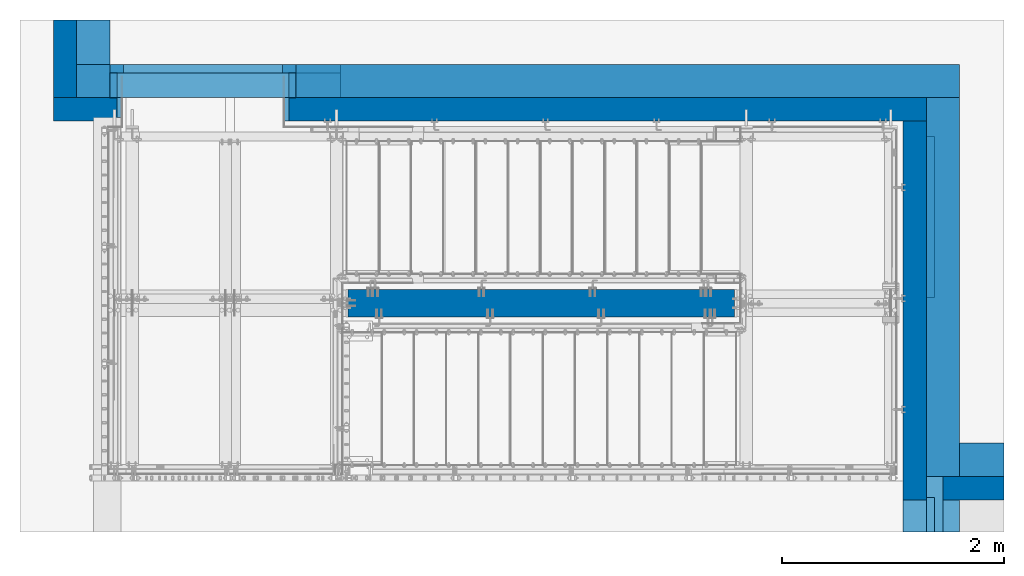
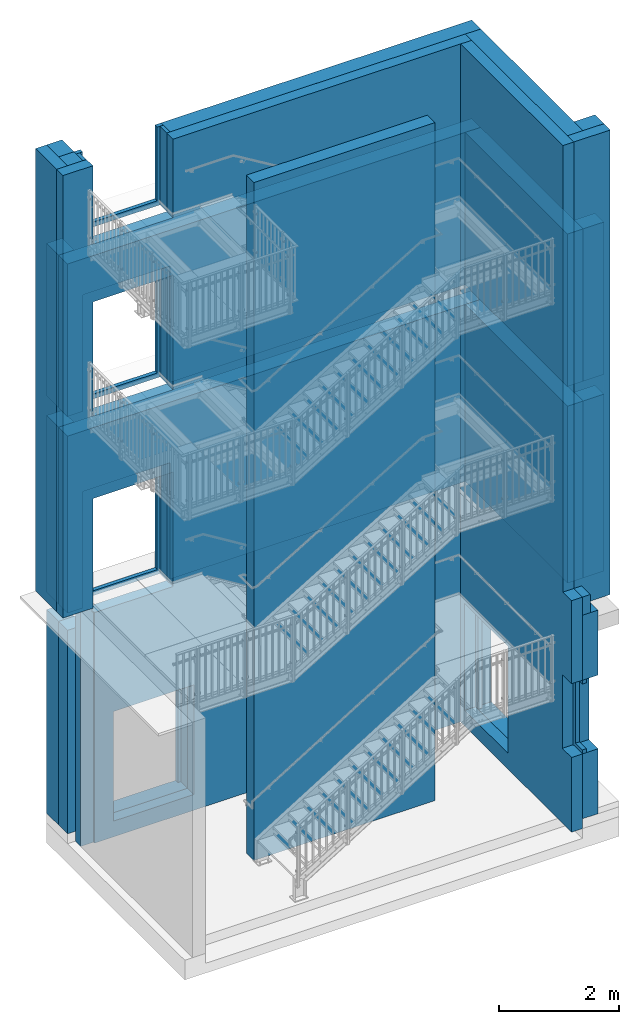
# One storey, part 73 of 410: 31 walls, 27 openings.
"""IFC2X3 building model written with IfcOpenShell, lengths in millimetres."""

from ifc_helpers import new_model, entity, si_unit, converted_unit, frame, origin, origin_with_axes, place, context, project, spatial, polyline, outline, extrude, material, layer, layer_set, element, save


model = new_model("IFC2X3")

# Units and contexts
model_context = context("Model", 3, precision=1e-09, world=origin_with_axes())
ifc_project = project(units=[si_unit("LENGTHUNIT", "METRE", prefix="MILLI"), si_unit("AREAUNIT", "SQUARE_METRE"), si_unit("VOLUMEUNIT", "CUBIC_METRE"), converted_unit("PLANEANGLEUNIT", "DEGREE", entity("IfcPlaneAngleMeasure", 0.01745329), si_unit("PLANEANGLEUNIT", "RADIAN"), dimensions=[0, 0, 0, 0, 0, 0, 0])], contexts=[model_context])

# Site, building, storey
site_placement = place(None, origin_with_axes())
site = spatial("IfcSite", under=ifc_project, at=site_placement, Name="mKR Teilneubau & Sanierung BA1 - Ostfildern", CompositionType="ELEMENT")
building_placement = place(site_placement, origin_with_axes())
building = spatial("IfcBuilding", under=site, at=building_placement, Name="Struktur 1", CompositionType="ELEMENT")
storey_placement = place(building_placement, origin_with_axes())
storey = spatial("IfcBuildingStorey", under=building, at=storey_placement, Name="Default Storey", CompositionType="ELEMENT", Elevation=0.0)

# Wall
ifc_material = material(Name="C25/30")
ifc_layer_1 = layer(ifc_material, 300.0)
ifc_layer_set_1 = layer_set([ifc_layer_1], Name="C25/30")
wall_1_placement = place(None, frame((-3850.0, 19329.999958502, 5450.000021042), z_axis=(-1.0, 0.0, 0.0), x_axis=(0.0, -1.0, 0.0)))
element("IfcWall", 1, at=wall_1_placement, inside=storey, material=ifc_layer_set_1, Name="-", ObjectType="-", context=model_context, shape_type="SweptSolid", body=[
    extrude(outline(polyline([(-200.0, -1550.0), (200.0, -1550.0), (200.0, 1550.0), (-200.0, 1550.0), (-200.0, -1550.0)])), origin_with_axes(), (0.0, 0.0, 1.0), 300.0),
])

# Wall, opening
wall_2_placement = place(None, frame((-174.99949668, 19129.999956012, 5450.000021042), z_axis=(0.0, -1.0, 0.0), x_axis=(1.0, 0.0, 0.0)))
wall_2 = element("IfcWall", 2, at=wall_2_placement, inside=storey, material=ifc_layer_set_1, Name="-", ObjectType="-", context=model_context, shape_type="SweptSolid", body=[
    extrude(outline(polyline([(-3975.0, -1550.0), (3975.0, -1550.0), (3975.0, 1550.0), (-3975.0, 1550.0), (-3975.0, -1550.0)])), origin_with_axes(), (0.0, 0.0, 1.0), 300.0),
])
opening_1_placement = place(wall_2_placement, frame((-1.661e-06, 0.0, -0.10004399), z_axis=(0.0, 0.0, 1.0), x_axis=(1.0, 0.0, 0.0)))
element("IfcOpeningElement", 3, at=opening_1_placement, cuts=wall_2, ObjectType="Opening", context=model_context, shape_type="SweptSolid", body=[
    extrude(outline(polyline([(-3675.0015, -1550.001021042), (-2000.00000166, -1550.001021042), (-2000.00000166, 820.000978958), (-3675.0015, 820.000978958), (-3675.0015, -1550.001021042)])), origin(), (0.0, 0.0, 1.0), 300.200087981),
])

# Walls
wall_3_placement = place(None, frame((3800.001, 17125.000368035, 5450.000021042), z_axis=(-1.0, 2.93e-07, 0.0), x_axis=(-2.93e-07, -1.0, 0.0)))
element("IfcWall", 4, at=wall_3_placement, inside=storey, material=ifc_layer_set_1, Name="-", ObjectType="-", context=model_context, shape_type="SweptSolid", body=[
    extrude(outline(polyline([(-1705.0, -1550.0), (1705.0, -1550.0), (1705.0, 1550.0), (-1705.0, 1550.0), (-1705.0, -1550.0)])), origin_with_axes(), (0.0, 0.0, 1.0), 300.0),
])
wall_4_placement = place(None, frame((3999.999934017, 15719.999956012, 5450.000021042), z_axis=(2.2e-07, -1.0, 0.0), x_axis=(1.0, 2.2e-07, 0.0)))
element("IfcWall", 5, at=wall_4_placement, inside=storey, material=ifc_layer_set_1, Name="-", ObjectType="-", context=model_context, shape_type="SweptSolid", body=[
    extrude(outline(polyline([(-200.0, -1550.0), (200.0, -1550.0), (200.0, 1550.0), (-200.0, 1550.0), (-200.0, -1550.0)])), origin_with_axes(), (0.0, 0.0, 1.0), 300.0),
])
wall_5_placement = place(None, frame((-3850.0, 19329.999958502, 8200.000021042), z_axis=(-1.0, 0.0, 0.0), x_axis=(0.0, -1.0, 0.0)))
element("IfcWall", 6, at=wall_5_placement, inside=storey, material=ifc_layer_set_1, Name="-", ObjectType="-", context=model_context, shape_type="SweptSolid", body=[
    extrude(outline(polyline([(-200.0, -800.0), (200.0, -800.0), (200.0, 800.0), (-200.0, 800.0), (-200.0, -800.0)])), origin_with_axes(), (0.0, 0.0, 1.0), 300.0),
])

# Wall, opening
wall_6_placement = place(None, frame((-174.99949668, 19129.999956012, 8200.000021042), z_axis=(0.0, -1.0, 0.0), x_axis=(1.0, 0.0, 0.0)))
wall_6 = element("IfcWall", 7, at=wall_6_placement, inside=storey, material=ifc_layer_set_1, Name="-", ObjectType="-", context=model_context, shape_type="SweptSolid", body=[
    extrude(outline(polyline([(-3975.0, -800.0), (3975.0, -800.0), (3975.0, 800.0), (-3975.0, 800.0), (-3975.0, -800.0)])), origin_with_axes(), (0.0, 0.0, 1.0), 300.0),
])
opening_2_placement = place(wall_6_placement, frame((-1.661e-06, 0.0, -0.10004399), z_axis=(0.0, 0.0, 1.0), x_axis=(1.0, 0.0, 0.0)))
element("IfcOpeningElement", 8, at=opening_2_placement, cuts=wall_6, ObjectType="Opening", context=model_context, shape_type="SweptSolid", body=[
    extrude(outline(polyline([(-3675.0015, -800.001021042), (-1999.9995, -800.001021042), (-1999.9995, 1075.774564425), (-3675.0015, 1075.774564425), (-3675.0015, -800.001021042)])), origin(), (0.0, 0.0, 1.0), 300.200087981),
])

# Walls
wall_7_placement = place(None, frame((3800.001, 17125.000368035, 8200.000021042), z_axis=(-1.0, 2.93e-07, 0.0), x_axis=(-2.93e-07, -1.0, 0.0)))
element("IfcWall", 9, at=wall_7_placement, inside=storey, material=ifc_layer_set_1, Name="-", ObjectType="-", context=model_context, shape_type="SweptSolid", body=[
    extrude(outline(polyline([(-1705.0, -800.0), (1705.0, -800.0), (1705.0, 800.0), (-1705.0, 800.0), (-1705.0, -800.0)])), origin_with_axes(), (0.0, 0.0, 1.0), 300.0),
])
wall_8_placement = place(None, frame((3999.999934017, 15719.999956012, 8200.000021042), z_axis=(2.2e-07, -1.0, 0.0), x_axis=(1.0, 2.2e-07, 0.0)))
element("IfcWall", 10, at=wall_8_placement, inside=storey, material=ifc_layer_set_1, Name="-", ObjectType="-", context=model_context, shape_type="SweptSolid", body=[
    extrude(outline(polyline([(-200.0, -800.0), (200.0, -800.0), (200.0, 800.0), (-200.0, 800.0), (-200.0, -800.0)])), origin_with_axes(), (0.0, 0.0, 1.0), 300.0),
])

# Wall, opening
ifc_layer_2 = layer(ifc_material, 75.0)
ifc_layer_set_2 = layer_set([ifc_layer_2], Name="C25/30")
wall_9_placement = place(None, frame((-3012.500439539, 19054.999302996, 5084.999), z_axis=(-8.06e-07, 1.0, 0.0), x_axis=(-1.0, -8.06e-07, 0.0)))
wall_9 = element("IfcWall", 11, at=wall_9_placement, inside=storey, material=ifc_layer_set_2, Name="-", ObjectType="-", context=model_context, shape_type="SweptSolid", body=[
    extrude(outline(polyline([(-837.5, -1185.0), (837.5, -1185.0), (837.5, 1185.0), (-837.5, 1185.0), (-837.5, -1185.0)])), origin_with_axes(), (0.0, 0.0, 1.0), 75.0),
])
opening_3_placement = place(wall_9_placement, frame((-3.0312e-05, 0.0, 75.100675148), z_axis=(8.06e-07, 0.0, -1.0), x_axis=(-1.0, 0.0, -8.06e-07)))
element("IfcOpeningElement", 12, at=opening_3_placement, cuts=wall_9, ObjectType="Opening", context=model_context, shape_type="SweptSolid", body=[
    extrude(outline(polyline([(-717.500971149, -1085.001), (717.502089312, -1085.001), (717.50202885, 1105.003), (-717.501031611, 1105.003), (-717.500971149, -1085.001)])), origin(), (0.0, 0.0, 1.0), 75.201350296),
])

wall_10_placement = place(None, frame((-2612.499439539, 19054.999309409, -3335.001), z_axis=(-8.06e-07, 1.0, 0.0), x_axis=(-1.0, -8.06e-07, 0.0)))
wall_10 = element("IfcWall", 13, at=wall_10_placement, inside=storey, material=ifc_layer_set_2, Name="-", ObjectType="-", context=model_context, shape_type="SweptSolid", body=[
    extrude(outline(polyline([(-837.501, -1135.0), (837.501, -1135.0), (837.501, 1135.0), (-837.501, 1135.0), (-837.501, -1135.0)])), origin_with_axes(), (0.0, 0.0, 1.0), 75.0),
])
opening_4_placement = place(wall_10_placement, frame((-3.0312e-05, 0.0, 75.100675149), z_axis=(8.06e-07, 0.0, -1.0), x_axis=(-1.0, 0.0, -8.06e-07)))
element("IfcOpeningElement", 14, at=opening_4_placement, cuts=wall_10, ObjectType="Opening", context=model_context, shape_type="SweptSolid", body=[
    extrude(outline(polyline([(-717.500969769, -1135.001), (717.502090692, -1135.001), (717.50203023, 1055.003), (-717.501030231, 1055.003), (-717.500969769, -1135.001)])), origin(), (0.0, 0.0, 1.0), 75.201350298),
])

# Wall, openings
wall_11_placement = place(None, frame((-3012.500439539, 19054.999302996, 8634.999), z_axis=(-8.06e-07, 1.0, 0.0), x_axis=(-1.0, -8.06e-07, 0.0)))
wall_11 = element("IfcWall", 15, at=wall_11_placement, inside=storey, material=ifc_layer_set_2, Name="-", ObjectType="-", context=model_context, shape_type="SweptSolid", body=[
    extrude(outline(polyline([(-837.5, -1235.0), (837.5, -1235.0), (837.5, 1235.0), (-837.5, 1235.0), (-837.5, -1235.0)])), origin_with_axes(), (0.0, 0.0, 1.0), 75.0),
])
opening_5_placement = place(wall_11_placement, frame((-3.0312e-05, 0.0, 75.100675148), z_axis=(8.06e-07, 0.0, -1.0), x_axis=(-1.0, 0.0, -8.06e-07)))
element("IfcOpeningElement", 16, at=opening_5_placement, cuts=wall_11, ObjectType="Opening", context=model_context, shape_type="SweptSolid", body=[
    extrude(outline(polyline([(-717.500969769, -1135.0), (717.502090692, -1135.0), (717.50203023, 1055.003), (-717.501030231, 1055.003), (-717.500969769, -1135.0)])), origin(), (0.0, 0.0, 1.0), 75.201350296),
])
opening_6_placement = place(wall_11_placement, frame((-3.0312e-05, 0.0, 75.100675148), z_axis=(8.06e-07, 0.0, -1.0), x_axis=(-1.0, 0.0, -8.06e-07)))
element("IfcOpeningElement", 17, at=opening_6_placement, cuts=wall_11, ObjectType="Opening", context=model_context, shape_type="SweptSolid", body=[
    extrude(outline(polyline([(-987.500531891, 365.000021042), (1057.173475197, 365.000021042), (1057.173475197, 1313.68029887), (-987.500531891, 1313.68029887), (-987.500531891, 365.000021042)])), origin(), (0.0, 0.0, 1.0), 75.201350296),
])

# Wall, opening
wall_12_placement = place(None, frame((3574.999774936, 17754.999868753, -3382.5), z_axis=(-1.0, -9.31e-07, 0.0), x_axis=(9.31e-07, -1.0, 0.0)))
wall_12 = element("IfcWall", 18, at=wall_12_placement, inside=storey, material=ifc_layer_set_2, Name="-", ObjectType="-", context=model_context, shape_type="SweptSolid", body=[
    extrude(outline(polyline([(-725.001, -1087.501), (725.001, -1087.501), (725.001, 1087.501), (-725.001, 1087.501), (-725.001, -1087.501)])), origin_with_axes(), (0.0, 0.0, 1.0), 75.0),
])
opening_7_placement = place(wall_12_placement, frame((-3.0312e-05, 0.0, 75.100584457), z_axis=(8.06e-07, 0.0, -1.0), x_axis=(-1.0, 0.0, -8.06e-07)))
element("IfcOpeningElement", 19, at=opening_7_placement, cuts=wall_12, ObjectType="Opening", context=model_context, shape_type="SweptSolid", body=[
    extrude(outline(polyline([(-645.002000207, -1087.502), (645.001998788, -1087.502), (645.001940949, 1007.502), (-645.002058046, 1007.502), (-645.002000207, -1087.502)])), origin(), (0.0, 0.0, 1.0), 75.201168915),
])

wall_13_placement = place(None, frame((3574.999774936, 15075.000726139, -2520.0), z_axis=(-1.0, -4.356e-06, 0.0), x_axis=(4.356e-06, -1.0, 0.0)))
wall_13 = element("IfcWall", 20, at=wall_13_placement, inside=storey, material=ifc_layer_set_2, Name="-", ObjectType="-", context=model_context, shape_type="SweptSolid", body=[
    extrude(outline(polyline([(-155.000399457, -750.001), (155.000399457, -750.001), (155.000399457, 750.001), (-155.000399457, 750.001), (-155.000399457, -750.001)])), origin_with_axes(), (0.0, 0.0, 1.0), 75.0),
])
opening_8_placement = place(wall_13_placement, frame((0.000163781, 0.0, -0.100675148), z_axis=(-4.356e-06, 0.0, 1.0), x_axis=(1.0, 0.0, 4.356e-06)))
element("IfcOpeningElement", 21, at=opening_8_placement, cuts=wall_13, ObjectType="Opening", context=model_context, shape_type="SweptSolid", body=[
    extrude(outline(polyline([(-75.001236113, -670.002), (344.909581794, -670.002), (344.909581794, 670.002), (-75.001236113, 670.002), (-75.001236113, -670.002)])), origin(), (0.0, 0.0, 1.0), 75.201350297),
])

ifc_layer_3 = layer(ifc_material, 225.0)
ifc_layer_set_3 = layer_set([ifc_layer_3], Name="C25/30")
wall_14_placement = place(None, frame((-3012.500439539, 19054.999302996, 5084.999), z_axis=(8.06e-07, -1.0, 0.0), x_axis=(1.0, 8.06e-07, 0.0)))
wall_14 = element("IfcWall", 22, at=wall_14_placement, inside=storey, material=ifc_layer_set_3, Name="-", ObjectType="-", context=model_context, shape_type="SweptSolid", body=[
    extrude(outline(polyline([(-837.5, -1185.0), (837.5, -1185.0), (837.5, 1185.0), (-837.5, 1185.0), (-837.5, -1185.0)])), origin_with_axes(), (0.0, 0.0, 1.0), 225.0),
])
opening_9_placement = place(wall_14_placement, frame((9.0773e-05, 0.0, -0.100675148), z_axis=(-8.06e-07, 0.0, 1.0), x_axis=(1.0, 0.0, 8.06e-07)))
element("IfcOpeningElement", 23, at=opening_9_placement, cuts=wall_14, ObjectType="Opening", context=model_context, shape_type="SweptSolid", body=[
    extrude(outline(polyline([(-772.503151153, -1185.002), (772.50396977, -1185.002), (772.50396977, 1145.005), (-772.503151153, 1145.005), (-772.503151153, -1185.002)])), origin(), (0.0, 0.0, 1.0), 225.201350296),
])

wall_15_placement = place(None, frame((-3012.499937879, 19054.999346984, 1084.999), z_axis=(8.06e-07, -1.0, 0.0), x_axis=(1.0, 8.06e-07, 0.0)))
wall_15 = element("IfcWall", 24, at=wall_15_placement, inside=storey, material=ifc_layer_set_3, Name="-", ObjectType="-", context=model_context, shape_type="SweptSolid", body=[
    extrude(outline(polyline([(-837.5, -1185.0), (837.5, -1185.0), (837.5, 1185.0), (-837.5, 1185.0), (-837.5, -1185.0)])), origin_with_axes(), (0.0, 0.0, 1.0), 225.0),
])
opening_10_placement = place(wall_15_placement, frame((9.0773e-05, 0.0, -0.100675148), z_axis=(-8.06e-07, 0.0, 1.0), x_axis=(1.0, 0.0, 8.06e-07)))
element("IfcOpeningElement", 25, at=opening_10_placement, cuts=wall_15, ObjectType="Opening", context=model_context, shape_type="SweptSolid", body=[
    extrude(outline(polyline([(-772.503652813, -1185.002), (772.50346811, -1185.002), (772.50346811, 1145.005), (-772.503652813, 1145.005), (-772.503652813, -1185.002)])), origin(), (0.0, 0.0, 1.0), 225.201350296),
])

wall_16_placement = place(None, frame((-2612.499439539, 19054.999309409, -3335.001), z_axis=(8.06e-07, -1.0, 0.0), x_axis=(1.0, 8.06e-07, 0.0)))
wall_16 = element("IfcWall", 26, at=wall_16_placement, inside=storey, material=ifc_layer_set_3, Name="-", ObjectType="-", context=model_context, shape_type="SweptSolid", body=[
    extrude(outline(polyline([(-837.5, -1135.0), (837.5, -1135.0), (837.5, 1135.0), (-837.5, 1135.0), (-837.5, -1135.0)])), origin_with_axes(), (0.0, 0.0, 1.0), 225.0),
])
opening_11_placement = place(wall_16_placement, frame((9.0773e-05, 0.0, -0.100675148), z_axis=(-8.06e-07, 0.0, 1.0), x_axis=(1.0, 0.0, 8.06e-07)))
element("IfcOpeningElement", 27, at=opening_11_placement, cuts=wall_16, ObjectType="Opening", context=model_context, shape_type="SweptSolid", body=[
    extrude(outline(polyline([(-772.503652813, -1135.002), (772.50346811, -1135.002), (772.50346811, 1095.005), (-772.503652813, 1095.005), (-772.503652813, -1135.002)])), origin(), (0.0, 0.0, 1.0), 225.201350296),
])

# Wall
wall_17_placement = place(None, frame((-3850.0, 19330.0005, -2520.0), z_axis=(-1.0, 0.0, 0.0), x_axis=(0.0, -1.0, 0.0)))
element("IfcWall", 28, at=wall_17_placement, inside=storey, material=ifc_layer_set_1, Name="-", ObjectType="-", context=model_context, shape_type="SweptSolid", body=[
    extrude(outline(polyline([(-199.9995, -2070.0), (199.9995, -2070.0), (199.9995, 2070.0), (-199.9995, 2070.0), (-199.9995, -2070.0)])), origin_with_axes(), (0.0, 0.0, 1.0), 300.0),
])

# Wall, opening
wall_18_placement = place(None, frame((-175.000002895, 19130.0, -2520.0), z_axis=(0.0, -1.0, 0.0), x_axis=(1.0, 0.0, 0.0)))
wall_18 = element("IfcWall", 29, at=wall_18_placement, inside=storey, material=ifc_layer_set_1, Name="-", ObjectType="-", context=model_context, shape_type="SweptSolid", body=[
    extrude(outline(polyline([(-3975.0, -2070.0), (3975.0, -2070.0), (3975.0, 2070.0), (-3975.0, 2070.0), (-3975.0, -2070.0)])), origin_with_axes(), (0.0, 0.0, 1.0), 300.0),
])
opening_12_placement = place(wall_18_placement, frame((1.449e-06, 0.0, -0.100038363), z_axis=(0.0, 0.0, 1.0), x_axis=(1.0, 0.0, 0.0)))
element("IfcOpeningElement", 30, at=opening_12_placement, cuts=wall_18, ObjectType="Opening", context=model_context, shape_type="SweptSolid", body=[
    extrude(outline(polyline([(-3275.000498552, -1950.001), (-1599.998498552, -1950.001), (-1599.998498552, 320.001), (-3275.000498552, 320.001), (-3275.000498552, -1950.001)])), origin(), (0.0, 0.0, 1.0), 300.200076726),
])

# Wall, openings
wall_19_placement = place(None, frame((3800.0, 16875.000576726, -2520.0), z_axis=(-1.0, -2.56e-07, 0.0), x_axis=(2.56e-07, -1.0, 0.0)))
wall_19 = element("IfcWall", 31, at=wall_19_placement, inside=storey, material=ifc_layer_set_1, Name="-", ObjectType="-", context=model_context, shape_type="SweptSolid", body=[
    extrude(outline(polyline([(-1955.0005, -2070.0), (1955.0005, -2070.0), (1955.0005, 2070.0), (-1955.0005, 2070.0), (-1955.0005, -2070.0)])), origin_with_axes(), (0.0, 0.0, 1.0), 300.0),
])
opening_13_placement = place(wall_19_placement, frame((3.8389e-05, 0.0, -0.1005), z_axis=(-2.56e-07, 0.0, 1.0), x_axis=(1.0, 0.0, 2.56e-07)))
element("IfcOpeningElement", 32, at=opening_13_placement, cuts=wall_19, ObjectType="Opening", context=model_context, shape_type="SweptSolid", body=[
    extrude(outline(polyline([(1644.999621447, -750.001), (2286.768507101, -750.001), (2286.768507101, 750.001), (1644.999621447, 750.001), (1644.999621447, -750.001)])), origin(), (0.0, 0.0, 1.0), 300.201),
])
opening_14_placement = place(wall_19_placement, frame((3.8389e-05, 0.0, -0.1005), z_axis=(-2.56e-07, 0.0, 1.0), x_axis=(1.0, 0.0, 2.56e-07)))
element("IfcOpeningElement", 33, at=opening_14_placement, cuts=wall_19, ObjectType="Opening", context=model_context, shape_type="SweptSolid", body=[
    extrude(outline(polyline([(-1605.000378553, -1950.001), (-154.998378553, -1950.001), (-154.998378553, 225.001), (-1605.000378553, 225.001), (-1605.000378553, -1950.001)])), origin(), (0.0, 0.0, 1.0), 300.201),
])

# Wall
wall_20_placement = place(None, frame((-3850.0, 19330.00000249, 1700.0), z_axis=(-1.0, 0.0, 0.0), x_axis=(0.0, -1.0, 0.0)))
element("IfcWall", 34, at=wall_20_placement, inside=storey, material=ifc_layer_set_1, Name="-", ObjectType="-", context=model_context, shape_type="SweptSolid", body=[
    extrude(outline(polyline([(-200.0, -1800.0), (200.0, -1800.0), (200.0, 1800.0), (-200.0, 1800.0), (-200.0, -1800.0)])), origin_with_axes(), (0.0, 0.0, 1.0), 300.0),
])

# Wall, opening
wall_21_placement = place(None, frame((-174.99949668, 19130.0, 1700.0), z_axis=(0.0, -1.0, 0.0), x_axis=(1.0, 0.0, 0.0)))
wall_21 = element("IfcWall", 35, at=wall_21_placement, inside=storey, material=ifc_layer_set_1, Name="-", ObjectType="-", context=model_context, shape_type="SweptSolid", body=[
    extrude(outline(polyline([(-3975.0, -1800.0), (3975.0, -1800.0), (3975.0, 1800.0), (-3975.0, 1800.0), (-3975.0, -1800.0)])), origin_with_axes(), (0.0, 0.0, 1.0), 300.0),
])
opening_15_placement = place(wall_21_placement, frame((-1.661e-06, 0.0, -0.100043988), z_axis=(0.0, 0.0, 1.0), x_axis=(1.0, 0.0, 0.0)))
element("IfcOpeningElement", 36, at=opening_15_placement, cuts=wall_21, ObjectType="Opening", context=model_context, shape_type="SweptSolid", body=[
    extrude(outline(polyline([(-3675.0015, -1800.001), (-1999.9995, -1800.001), (-1999.9995, 570.001), (-3675.0015, 570.001), (-3675.0015, -1800.001)])), origin(), (0.0, 0.0, 1.0), 300.200087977),
])

# Walls
wall_22_placement = place(None, frame((3800.001, 17125.000412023, 1700.0), z_axis=(-1.0, 2.93e-07, 0.0), x_axis=(-2.93e-07, -1.0, 0.0)))
element("IfcWall", 37, at=wall_22_placement, inside=storey, material=ifc_layer_set_1, Name="-", ObjectType="-", context=model_context, shape_type="SweptSolid", body=[
    extrude(outline(polyline([(-1705.0, -1800.0), (1705.0, -1800.0), (1705.0, 1800.0), (-1705.0, 1800.0), (-1705.0, -1800.0)])), origin_with_axes(), (0.0, 0.0, 1.0), 300.0),
])
wall_23_placement = place(None, frame((3999.999934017, 15720.0, 1700.0), z_axis=(2.2e-07, -1.0, 0.0), x_axis=(1.0, 2.2e-07, 0.0)))
element("IfcWall", 38, at=wall_23_placement, inside=storey, material=ifc_layer_set_1, Name="-", ObjectType="-", context=model_context, shape_type="SweptSolid", body=[
    extrude(outline(polyline([(-200.0, -1800.0), (200.0, -1800.0), (200.0, 1800.0), (-200.0, 1800.0), (-200.0, -1800.0)])), origin_with_axes(), (0.0, 0.0, 1.0), 300.0),
])
ifc_layer_4 = layer(ifc_material, 250.0)
ifc_layer_set_4 = layer_set([ifc_layer_4], Name="C25/30")
wall_24_placement = place(None, frame((35.0, 17105.0, 2104.999873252), z_axis=(0.0, -1.0, 0.0), x_axis=(1.0, 0.0, 0.0)))
element("IfcWall", 39, at=wall_24_placement, inside=storey, material=ifc_layer_set_4, Name="-", ObjectType="-", context=model_context, shape_type="SweptSolid", body=[
    extrude(outline(polyline([(-1740.0, -6894.999873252), (1740.0, -6894.999873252), (1740.0, 6894.999873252), (-1740.0, 6894.999873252), (-1740.0, -6894.999873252)])), origin_with_axes(), (0.0, 0.0, 1.0), 250.0),
])
ifc_layer_5 = layer(ifc_material, 150.0)
ifc_layer_set_5 = layer_set([ifc_layer_5], Name="C25/30")
wall_25_placement = place(None, frame((3500.00075, 15170.0, -265.0), z_axis=(1.0, -1e-06, 0.0), x_axis=(1e-06, 1.0, 0.0)))
element("IfcWall", 40, at=wall_25_placement, inside=storey, material=ifc_layer_set_5, Name="-", ObjectType="-", context=model_context, shape_type="SweptSolid", body=[
    extrude(outline(polyline([(-250.0, -185.0), (250.0, -185.0), (250.0, 185.0), (-250.0, 185.0), (-250.0, -185.0)])), origin_with_axes(), (0.0, 0.0, 1.0), 150.0),
])
ifc_layer_6 = layer(ifc_material, 210.0)
ifc_layer_set_6 = layer_set([ifc_layer_6], Name="C25/30")
wall_26_placement = place(None, frame((-4150.000135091, 19179.999853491, 4499.999010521), z_axis=(-1.0, 3.81e-07, 0.0), x_axis=(-3.81e-07, -1.0, 0.0)))
element("IfcWall", 41, at=wall_26_placement, inside=storey, material=ifc_layer_set_6, Name="-", ObjectType="-", context=model_context, shape_type="SweptSolid", body=[
    extrude(outline(polyline([(-349.999871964, -4500.001010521), (349.999871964, -4500.001010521), (349.999871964, 4500.001010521), (-349.999871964, 4500.001010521), (-349.999871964, -4500.001010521)])), origin_with_axes(), (0.0, 0.0, 1.0), 210.0),
])

# Wall, openings
wall_27_placement = place(None, frame((-429.999355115, 18829.998939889, 2105.000010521), z_axis=(-2.85e-07, -1.0, 0.0), x_axis=(1.0, -2.85e-07, 0.0)))
wall_27 = element("IfcWall", 42, at=wall_27_placement, inside=storey, material=ifc_layer_set_6, Name="-", ObjectType="-", context=model_context, shape_type="SweptSolid", body=[
    extrude(outline(polyline([(-3930.000853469, -6895.000010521), (3930.000853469, -6895.000010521), (3930.000853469, 6895.000010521), (-3930.000853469, 6895.000010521), (-3930.000853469, -6895.000010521)])), origin_with_axes(), (0.0, 0.0, 1.0), 210.0),
])
opening_16_placement = place(wall_27_placement, frame((-2.9998e-05, 0.0, -0.101121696), z_axis=(2.85e-07, 0.0, 1.0), x_axis=(1.0, 0.0, -2.85e-07)))
element("IfcOpeningElement", 43, at=opening_16_placement, cuts=wall_27, ObjectType="Opening", context=model_context, shape_type="SweptSolid", body=[
    extrude(outline(polyline([(-2955.002616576, -6575.002010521), (-1409.997495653, -6575.002010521), (-1409.997495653, -4344.997010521), (-2955.002616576, -4344.997010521), (-2955.002616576, -6575.002010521)])), origin(), (0.0, 0.0, 1.0), 210.202243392),
])
opening_17_placement = place(wall_27_placement, frame((-2.9998e-05, 0.0, -0.101121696), z_axis=(2.85e-07, 0.0, 1.0), x_axis=(1.0, 0.0, -2.85e-07)))
element("IfcOpeningElement", 44, at=opening_17_placement, cuts=wall_27, ObjectType="Opening", context=model_context, shape_type="SweptSolid", body=[
    extrude(outline(polyline([(-3355.003114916, -2205.002010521), (-1809.997993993, -2205.002010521), (-1809.997993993, 125.002989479), (-3355.003114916, 125.002989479), (-3355.003114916, -2205.002010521)])), origin(), (0.0, 0.0, 1.0), 210.202243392),
])
opening_18_placement = place(wall_27_placement, frame((-2.9998e-05, 0.0, -0.101121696), z_axis=(2.85e-07, 0.0, 1.0), x_axis=(1.0, 0.0, -2.85e-07)))
element("IfcOpeningElement", 45, at=opening_18_placement, cuts=wall_27, ObjectType="Opening", context=model_context, shape_type="SweptSolid", body=[
    extrude(outline(polyline([(-3355.003114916, 1794.997989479), (-1809.997993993, 1794.997989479), (-1809.997993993, 4125.002989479), (-3355.003114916, 4125.002989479), (-3355.003114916, 1794.997989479)])), origin(), (0.0, 0.0, 1.0), 210.202243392),
])
opening_19_placement = place(wall_27_placement, frame((-2.9998e-05, 0.0, -0.101121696), z_axis=(2.85e-07, 0.0, 1.0), x_axis=(1.0, 0.0, -2.85e-07)))
element("IfcOpeningElement", 46, at=opening_19_placement, cuts=wall_27, ObjectType="Opening", context=model_context, shape_type="SweptSolid", body=[
    extrude(outline(polyline([(-3355.003114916, 5294.997989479), (-1809.997993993, 5294.997989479), (-1809.997993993, 7625.002989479), (-3355.003114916, 7625.002989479), (-3355.003114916, 5294.997989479)])), origin(), (0.0, 0.0, 1.0), 210.202243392),
])
opening_20_placement = place(wall_27_placement, frame((2.1406e-05, 0.0, 180.0), z_axis=(2.85e-07, 0.0, 1.0), x_axis=(1.0, 0.0, -2.85e-07)))
element("IfcOpeningElement", 47, at=opening_20_placement, cuts=wall_27, ObjectType="Opening", context=model_context, shape_type="SweptSolid", body=[
    extrude(outline(polyline([(-3570.003114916, -6895.001010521), (-3320.001114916, -6895.001010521), (-3320.001114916, -2104.999010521), (-3570.003114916, -2104.999010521), (-3570.003114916, -6895.001010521)])), origin(), (0.0, 0.0, 1.0), 30.101121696),
])
opening_21_placement = place(wall_27_placement, frame((-2.9998e-05, 0.0, -0.101121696), z_axis=(2.85e-07, 0.0, 1.0), x_axis=(1.0, 0.0, -2.85e-07)))
element("IfcOpeningElement", 48, at=opening_21_placement, cuts=wall_27, ObjectType="Opening", context=model_context, shape_type="SweptSolid", body=[
    extrude(outline(polyline([(-4235.477828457, -7196.864194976), (-3570.000114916, -7196.864194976), (-3570.000114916, -2104.999010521), (-4235.477828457, -2104.999010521), (-4235.477828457, -7196.864194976)])), origin(), (0.0, 0.0, 1.0), 210.202243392),
])

wall_28_placement = place(None, frame((3500.000327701, 16769.99878301, 2105.000010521), z_axis=(-1.0, 6e-07, 0.0), x_axis=(-6e-07, -1.0, 0.0)))
wall_28 = element("IfcWall", 49, at=wall_28_placement, inside=storey, material=ifc_layer_set_6, Name="-", ObjectType="-", context=model_context, shape_type="SweptSolid", body=[
    extrude(outline(polyline([(-1849.998909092, -6895.000010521), (1849.998909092, -6895.000010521), (1849.998909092, 6895.000010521), (-1849.998909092, 6895.000010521), (-1849.998909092, -6895.000010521)])), origin_with_axes(), (0.0, 0.0, 1.0), 210.0),
])
opening_22_placement = place(wall_28_placement, frame((-6.3101e-05, 0.0, -0.101110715), z_axis=(6e-07, 0.0, 1.0), x_axis=(1.0, 0.0, -6e-07)))
element("IfcOpeningElement", 50, at=opening_22_placement, cuts=wall_28, ObjectType="Opening", context=model_context, shape_type="SweptSolid", body=[
    extrude(outline(polyline([(1539.99704714, -5375.002010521), (2039.907865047, -5375.002010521), (2039.907865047, -3874.998010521), (1539.99704714, -3874.998010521), (1539.99704714, -5375.002010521)])), origin(), (0.0, 0.0, 1.0), 210.202221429),
])
opening_23_placement = place(wall_28_placement, frame((-6.3101e-05, 0.0, -0.101110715), z_axis=(6e-07, 0.0, 1.0), x_axis=(1.0, 0.0, -6e-07)))
element("IfcOpeningElement", 51, at=opening_23_placement, cuts=wall_28, ObjectType="Opening", context=model_context, shape_type="SweptSolid", body=[
    extrude(outline(polyline([(-1710.002952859, -6575.002010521), (-259.998952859, -6575.002010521), (-259.998952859, -4399.998010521), (-1710.002952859, -4399.998010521), (-1710.002952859, -6575.002010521)])), origin(), (0.0, 0.0, 1.0), 210.202221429),
])
opening_24_placement = place(wall_28_placement, frame((-6.3101e-05, 0.0, -0.101110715), z_axis=(6e-07, 0.0, 1.0), x_axis=(1.0, 0.0, -6e-07)))
element("IfcOpeningElement", 52, at=opening_24_placement, cuts=wall_28, ObjectType="Opening", context=model_context, shape_type="SweptSolid", body=[
    extrude(outline(polyline([(1559.99784605, -2185.001010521), (2605.838225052, -2185.001010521), (2605.838225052, 7313.019423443), (1559.99784605, 7313.019423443), (1559.99784605, -2185.001010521)])), origin(), (0.0, 0.0, 1.0), 210.202221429),
])

# Wall, opening
wall_29_placement = place(None, frame((3849.999717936, 15420.000296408, 4275.000010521), z_axis=(-8.47e-07, -1.0, 0.0), x_axis=(1.0, -8.47e-07, 0.0)))
wall_29 = element("IfcWall", 53, at=wall_29_placement, inside=storey, material=ifc_layer_set_6, Name="-", ObjectType="-", context=model_context, shape_type="SweptSolid", body=[
    extrude(outline(polyline([(-350.000323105, -4725.000010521), (350.000323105, -4725.000010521), (350.000323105, 4725.000010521), (-350.000323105, 4725.000010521), (-350.000323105, -4725.000010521)])), origin_with_axes(), (0.0, 0.0, 1.0), 210.0),
])
opening_25_placement = place(wall_29_placement, frame((-8.9007e-05, 0.0, -0.100296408), z_axis=(8.47e-07, 0.0, 1.0), x_axis=(1.0, 0.0, -8.47e-07)))
element("IfcOpeningElement", 54, at=opening_25_placement, cuts=wall_29, ObjectType="Opening", context=model_context, shape_type="SweptSolid", body=[
    extrude(outline(polyline([(-403.999818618, -4815.492135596), (-199.997629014, -4815.492135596), (-199.997629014, -4354.999010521), (-403.999818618, -4354.999010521), (-403.999818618, -4815.492135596)])), origin(), (0.0, 0.0, 1.0), 210.200592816),
])

wall_30_placement = place(None, frame((-3012.499937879, 19054.999346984, 1084.999), z_axis=(-8.06e-07, 1.0, 0.0), x_axis=(-1.0, -8.06e-07, 0.0)))
wall_30 = element("IfcWall", 55, at=wall_30_placement, inside=storey, material=ifc_layer_set_2, Name="-", ObjectType="-", context=model_context, shape_type="SweptSolid", body=[
    extrude(outline(polyline([(-837.5, -1185.0), (837.5, -1185.0), (837.5, 1185.0), (-837.5, 1185.0), (-837.5, -1185.0)])), origin_with_axes(), (0.0, 0.0, 1.0), 75.0),
])
opening_26_placement = place(wall_30_placement, frame((-3.0312e-05, 0.0, 75.100675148), z_axis=(8.06e-07, 0.0, -1.0), x_axis=(-1.0, 0.0, -8.06e-07)))
element("IfcOpeningElement", 56, at=opening_26_placement, cuts=wall_30, ObjectType="Opening", context=model_context, shape_type="SweptSolid", body=[
    extrude(outline(polyline([(-717.500971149, -1085.001), (717.502089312, -1085.001), (717.50202885, 1105.003), (-717.501031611, 1105.003), (-717.500971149, -1085.001)])), origin(), (0.0, 0.0, 1.0), 75.201350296),
])

wall_31_placement = place(None, frame((-3012.500439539, 19054.999302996, 8199.999510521), z_axis=(8.06e-07, -1.0, 0.0), x_axis=(1.0, 8.06e-07, 0.0)))
wall_31 = element("IfcWall", 57, at=wall_31_placement, inside=storey, material=ifc_layer_set_3, Name="-", ObjectType="-", context=model_context, shape_type="SweptSolid", body=[
    extrude(outline(polyline([(-837.5, -800.000510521), (837.5, -800.000510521), (837.5, 800.000510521), (-837.5, 800.000510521), (-837.5, -800.000510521)])), origin_with_axes(), (0.0, 0.0, 1.0), 225.0),
])
opening_27_placement = place(wall_31_placement, frame((9.0773e-05, 0.0, -0.100675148), z_axis=(-8.06e-07, 0.0, 1.0), x_axis=(1.0, 0.0, 8.06e-07)))
element("IfcOpeningElement", 58, at=opening_27_placement, cuts=wall_31, ObjectType="Opening", context=model_context, shape_type="SweptSolid", body=[
    extrude(outline(polyline([(-772.503151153, -800.002510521), (772.50396977, -800.002510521), (772.50396977, 969.001589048), (-772.503151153, 969.001589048), (-772.503151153, -800.002510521)])), origin(), (0.0, 0.0, 1.0), 225.201350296),
])

save(model, "model.ifc")
